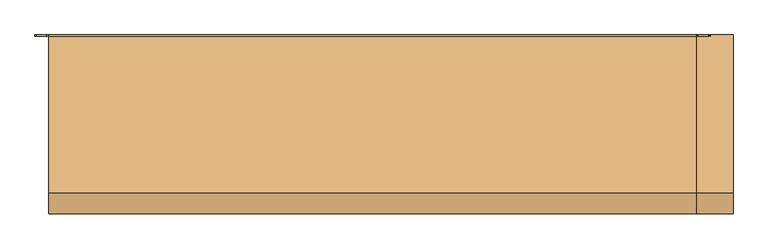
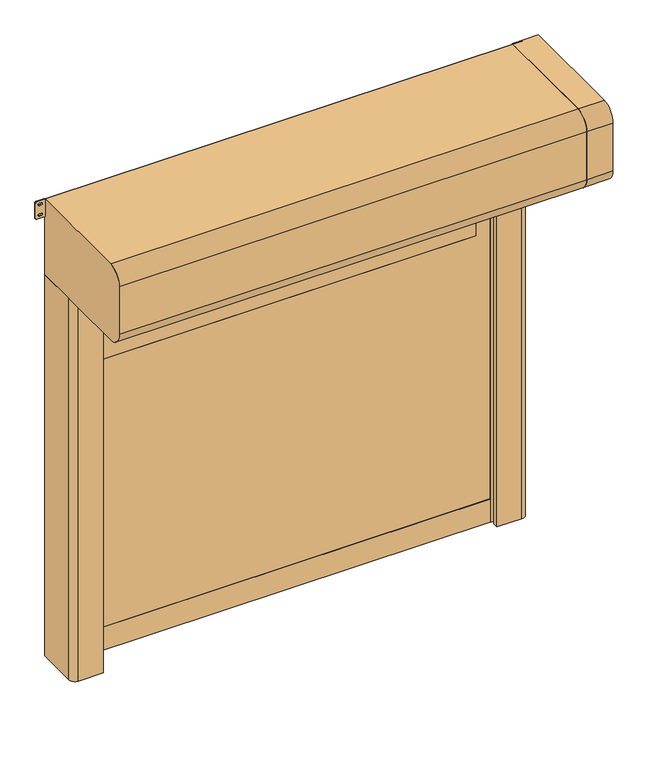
"""IFC4 building model written with IfcOpenShell, lengths in millimetres: door geometry, DO_WPB_Dynamicroll_BMP : Dynamicroll B-Drive."""

from ifc_helpers import new_model, si_unit, point, frame, frame_2d, origin, origin_with_axes, place, context, project, spatial, polyline, circle_curve, trimmed, segment, composite_curve, outline, extrude, source, transform, mapped, element, save


def door_5d1182d7(model_context):
    return source(origin(), model_context, "Body", "SweptSolid", [
        extrude(outline(composite_curve([segment(trimmed(circle_curve(frame_2d((1000.0, 1109.0)), 6.0), [point((1006.0, 1109.0))], [point((994.0, 1109.0))], False, "CARTESIAN"), True, "CONTINUOUS"), segment(polyline([(994.0, 1109.0), (994.0, 1127.0)]), True, "CONTINUOUS"), segment(trimmed(circle_curve(frame_2d((1000.0, 1127.0)), 6.0), [point((994.0, 1127.0))], [point((1006.0, 1127.0))], False, "CARTESIAN"), True, "CONTINUOUS"), segment(polyline([(1006.0, 1127.0), (1006.0, 1109.0)]), True, "CONTINUOUS")], self_intersect=False)), frame((0.0, -20.0, 0.0), z_axis=(0.0, 1.0, 0.0), x_axis=(0.0, 0.0, 1.0)), (0.0, 0.0, 1.0), 20.0),
        extrude(outline(composite_curve([segment(trimmed(circle_curve(frame_2d((1850.0, 1109.0)), 6.0), [point((1856.0, 1109.0))], [point((1844.0, 1109.0))], False, "CARTESIAN"), True, "CONTINUOUS"), segment(polyline([(1844.0, 1109.0), (1844.0, 1127.0)]), True, "CONTINUOUS"), segment(trimmed(circle_curve(frame_2d((1850.0, 1127.0)), 6.0), [point((1844.0, 1127.0))], [point((1856.0, 1127.0))], False, "CARTESIAN"), True, "CONTINUOUS"), segment(polyline([(1856.0, 1127.0), (1856.0, 1109.0)]), True, "CONTINUOUS")], self_intersect=False)), frame((0.0, -20.0, 0.0), z_axis=(0.0, 1.0, 0.0), x_axis=(0.0, 0.0, 1.0)), (0.0, 0.0, 1.0), 20.0),
        extrude(outline(composite_curve([segment(trimmed(circle_curve(frame_2d((150.0, 1109.0)), 6.0), [point((156.0, 1109.0))], [point((144.0, 1109.0))], False, "CARTESIAN"), True, "CONTINUOUS"), segment(polyline([(144.0, 1109.0), (144.0, 1127.0)]), True, "CONTINUOUS"), segment(trimmed(circle_curve(frame_2d((150.0, 1127.0)), 6.0), [point((144.0, 1127.0))], [point((156.0, 1127.0))], False, "CARTESIAN"), True, "CONTINUOUS"), segment(polyline([(156.0, 1127.0), (156.0, 1109.0)]), True, "CONTINUOUS")], self_intersect=False)), frame((0.0, -20.0, 0.0), z_axis=(0.0, 1.0, 0.0), x_axis=(0.0, 0.0, 1.0)), (0.0, 0.0, 1.0), 20.0),
        extrude(outline(composite_curve([segment(polyline([(1006.0, -1109.0), (1006.0, -1127.0)]), True, "CONTINUOUS"), segment(trimmed(circle_curve(frame_2d((1000.0, -1127.0)), 6.0), [point((1006.0, -1127.0))], [point((994.0, -1127.0))], False, "CARTESIAN"), True, "CONTINUOUS"), segment(polyline([(994.0, -1127.0), (994.0, -1109.0)]), True, "CONTINUOUS"), segment(trimmed(circle_curve(frame_2d((1000.0, -1109.0)), 6.0), [point((994.0, -1109.0))], [point((1006.0, -1109.0))], False, "CARTESIAN"), True, "CONTINUOUS")], self_intersect=False)), frame((0.0, -20.0, 0.0), z_axis=(0.0, 1.0, 0.0), x_axis=(0.0, 0.0, 1.0)), (0.0, 0.0, 1.0), 20.0),
        extrude(outline(composite_curve([segment(polyline([(1856.0, -1109.0), (1856.0, -1127.0)]), True, "CONTINUOUS"), segment(trimmed(circle_curve(frame_2d((1850.0, -1127.0)), 6.0), [point((1856.0, -1127.0))], [point((1844.0, -1127.0))], False, "CARTESIAN"), True, "CONTINUOUS"), segment(polyline([(1844.0, -1127.0), (1844.0, -1109.0)]), True, "CONTINUOUS"), segment(trimmed(circle_curve(frame_2d((1850.0, -1109.0)), 6.0), [point((1844.0, -1109.0))], [point((1856.0, -1109.0))], False, "CARTESIAN"), True, "CONTINUOUS")], self_intersect=False)), frame((0.0, -20.0, 0.0), z_axis=(0.0, 1.0, 0.0), x_axis=(0.0, 0.0, 1.0)), (0.0, 0.0, 1.0), 20.0),
        extrude(outline(composite_curve([segment(polyline([(156.0, -1109.0), (156.0, -1127.0)]), True, "CONTINUOUS"), segment(trimmed(circle_curve(frame_2d((150.0, -1127.0)), 6.0), [point((156.0, -1127.0))], [point((144.0, -1127.0))], False, "CARTESIAN"), True, "CONTINUOUS"), segment(polyline([(144.0, -1127.0), (144.0, -1109.0)]), True, "CONTINUOUS"), segment(trimmed(circle_curve(frame_2d((150.0, -1109.0)), 6.0), [point((144.0, -1109.0))], [point((156.0, -1109.0))], False, "CARTESIAN"), True, "CONTINUOUS")], self_intersect=False)), frame((0.0, -20.0, 0.0), z_axis=(0.0, 1.0, 0.0), x_axis=(0.0, 0.0, 1.0)), (0.0, 0.0, 1.0), 20.0),
        extrude(outline(composite_curve([segment(trimmed(circle_curve(frame_2d((1526.0, 929.0)), 1.0), [point((1525.0, 929.0))], [point((1526.0, 930.0))], False, "CARTESIAN"), True, "CONTINUOUS"), segment(polyline([(1526.0, 930.0), (2024.0, 930.0)]), True, "CONTINUOUS"), segment(trimmed(circle_curve(frame_2d((2024.0, 929.0)), 1.0), [point((2024.0, 930.0))], [point((2025.0, 929.0))], False, "CARTESIAN"), True, "CONTINUOUS"), segment(polyline([(2025.0, 929.0), (2025.0, -929.0)]), True, "CONTINUOUS"), segment(trimmed(circle_curve(frame_2d((2024.0, -929.0)), 1.0), [point((2025.0, -929.0))], [point((2024.0, -930.0))], False, "CARTESIAN"), True, "CONTINUOUS"), segment(polyline([(2024.0, -930.0), (1526.0, -930.0)]), True, "CONTINUOUS"), segment(trimmed(circle_curve(frame_2d((1526.0, -929.0)), 1.0), [point((1526.0, -930.0))], [point((1525.0, -929.0))], False, "CARTESIAN"), True, "CONTINUOUS"), segment(polyline([(1525.0, -929.0), (1525.0, 929.0)]), True, "CONTINUOUS")], self_intersect=False)), frame((0.0, -86.0, 0.0), z_axis=(0.0, 1.0, 0.0), x_axis=(0.0, 0.0, 1.0)), (0.0, 0.0, 1.0), 7.0),
        extrude(outline(polyline([(120.0, -1012.0), (120.0, 1012.0), (2200.0, 1012.0), (2200.0, -1012.0), (120.0, -1012.0)]), holes=[composite_curve([segment(trimmed(circle_curve(frame_2d((1526.0, 929.0)), 1.0), [point((1526.0, 930.0))], [point((1525.0, 929.0))], True, "CARTESIAN"), True, "CONTINUOUS"), segment(polyline([(1525.0, 929.0), (1525.0, -929.0)]), True, "CONTINUOUS"), segment(trimmed(circle_curve(frame_2d((1526.0, -929.0)), 1.0), [point((1525.0, -929.0))], [point((1526.0, -930.0))], True, "CARTESIAN"), True, "CONTINUOUS"), segment(polyline([(1526.0, -930.0), (2024.0, -930.0)]), True, "CONTINUOUS"), segment(trimmed(circle_curve(frame_2d((2024.0, -929.0)), 1.0), [point((2024.0, -930.0))], [point((2025.0, -929.0))], True, "CARTESIAN"), True, "CONTINUOUS"), segment(polyline([(2025.0, -929.0), (2025.0, 929.0)]), True, "CONTINUOUS"), segment(trimmed(circle_curve(frame_2d((2024.0, 929.0)), 1.0), [point((2025.0, 929.0))], [point((2024.0, 930.0))], True, "CARTESIAN"), True, "CONTINUOUS"), segment(polyline([(2024.0, 930.0), (1526.0, 930.0)]), True, "CONTINUOUS")], self_intersect=False)]), frame((0.0, -86.0, 0.0), z_axis=(0.0, 1.0, 0.0), x_axis=(0.0, 0.0, 1.0)), (0.0, 0.0, 1.0), 7.0),
        extrude(outline(polyline([(-1012.0, -77.0), (1012.0, -77.0), (1012.0, -88.0), (-1012.0, -88.0), (-1012.0, -77.0)])), origin_with_axes(), (0.0, 0.0, 1.0), 120.0),
        extrude(outline(composite_curve([segment(trimmed(circle_curve(frame_2d((2313.75, 1165.75)), 5.75), [point((2313.75, 1160.0))], [point((2308.0, 1165.75))], False, "CARTESIAN"), True, "CONTINUOUS"), segment(polyline([(2308.0, 1165.75), (2308.0, 1203.25)]), True, "CONTINUOUS"), segment(trimmed(circle_curve(frame_2d((2313.75, 1203.25)), 5.75), [point((2308.0, 1203.25))], [point((2313.75, 1209.0))], False, "CARTESIAN"), True, "CONTINUOUS"), segment(polyline([(2313.75, 1209.0), (2394.25, 1209.0)]), True, "CONTINUOUS"), segment(trimmed(circle_curve(frame_2d((2394.25, 1203.25)), 5.75), [point((2394.25, 1209.0))], [point((2400.0, 1203.25))], False, "CARTESIAN"), True, "CONTINUOUS"), segment(polyline([(2400.0, 1203.25), (2400.0, 1165.75)]), True, "CONTINUOUS"), segment(trimmed(circle_curve(frame_2d((2394.25, 1165.75)), 5.75), [point((2400.0, 1165.75))], [point((2394.25, 1160.0))], False, "CARTESIAN"), True, "CONTINUOUS"), segment(polyline([(2394.25, 1160.0), (2313.75, 1160.0)]), True, "CONTINUOUS")], self_intersect=False), holes=[composite_curve([segment(trimmed(circle_curve(frame_2d((2381.5, 1188.75)), 5.75), [point((2387.25, 1188.75))], [point((2375.75, 1188.75))], True, "CARTESIAN"), True, "CONTINUOUS"), segment(polyline([(2375.75, 1188.75), (2375.75, 1180.25)]), True, "CONTINUOUS"), segment(trimmed(circle_curve(frame_2d((2381.5, 1180.25)), 5.75), [point((2375.75, 1180.25))], [point((2387.25, 1180.25))], True, "CARTESIAN"), True, "CONTINUOUS"), segment(polyline([(2387.25, 1180.25), (2387.25, 1188.75)]), True, "CONTINUOUS")], self_intersect=False), composite_curve([segment(trimmed(circle_curve(frame_2d((2326.5, 1188.75)), 5.75), [point((2332.25, 1188.75))], [point((2320.75, 1188.75))], True, "CARTESIAN"), True, "CONTINUOUS"), segment(polyline([(2320.75, 1188.75), (2320.75, 1180.25)]), True, "CONTINUOUS"), segment(trimmed(circle_curve(frame_2d((2326.5, 1180.25)), 5.75), [point((2320.75, 1180.25))], [point((2332.25, 1180.25))], True, "CARTESIAN"), True, "CONTINUOUS"), segment(polyline([(2332.25, 1180.25), (2332.25, 1188.75)]), True, "CONTINUOUS")], self_intersect=False)]), frame((0.0, -5.0, 0.0), z_axis=(0.0, 1.0, 0.0), x_axis=(0.0, 0.0, 1.0)), (0.0, 0.0, 1.0), 5.0),
        extrude(outline(composite_curve([segment(trimmed(circle_curve(frame_2d((2313.75, -1203.25)), 5.75), [point((2313.75, -1209.0))], [point((2308.0, -1203.25))], False, "CARTESIAN"), True, "CONTINUOUS"), segment(polyline([(2308.0, -1203.25), (2308.0, -1165.75)]), True, "CONTINUOUS"), segment(trimmed(circle_curve(frame_2d((2313.75, -1165.75)), 5.75), [point((2308.0, -1165.75))], [point((2313.75, -1160.0))], False, "CARTESIAN"), True, "CONTINUOUS"), segment(polyline([(2313.75, -1160.0), (2394.25, -1160.0)]), True, "CONTINUOUS"), segment(trimmed(circle_curve(frame_2d((2394.25, -1165.75)), 5.75), [point((2394.25, -1160.0))], [point((2400.0, -1165.75))], False, "CARTESIAN"), True, "CONTINUOUS"), segment(polyline([(2400.0, -1165.75), (2400.0, -1203.25)]), True, "CONTINUOUS"), segment(trimmed(circle_curve(frame_2d((2394.25, -1203.25)), 5.75), [point((2400.0, -1203.25))], [point((2394.25, -1209.0))], False, "CARTESIAN"), True, "CONTINUOUS"), segment(polyline([(2394.25, -1209.0), (2313.75, -1209.0)]), True, "CONTINUOUS")], self_intersect=False), holes=[composite_curve([segment(trimmed(circle_curve(frame_2d((2381.5, -1180.25)), 5.75), [point((2387.25, -1180.25))], [point((2375.75, -1180.25))], True, "CARTESIAN"), True, "CONTINUOUS"), segment(polyline([(2375.75, -1180.25), (2375.75, -1188.75)]), True, "CONTINUOUS"), segment(trimmed(circle_curve(frame_2d((2381.5, -1188.75)), 5.75), [point((2375.75, -1188.75))], [point((2387.25, -1188.75))], True, "CARTESIAN"), True, "CONTINUOUS"), segment(polyline([(2387.25, -1188.75), (2387.25, -1180.25)]), True, "CONTINUOUS")], self_intersect=False), composite_curve([segment(trimmed(circle_curve(frame_2d((2326.5, -1180.25)), 5.75), [point((2332.25, -1180.25))], [point((2320.75, -1180.25))], True, "CARTESIAN"), True, "CONTINUOUS"), segment(polyline([(2320.75, -1180.25), (2320.75, -1188.75)]), True, "CONTINUOUS"), segment(trimmed(circle_curve(frame_2d((2326.5, -1188.75)), 5.75), [point((2320.75, -1188.75))], [point((2332.25, -1188.75))], True, "CARTESIAN"), True, "CONTINUOUS"), segment(polyline([(2332.25, -1188.75), (2332.25, -1180.25)]), True, "CONTINUOUS")], self_intersect=False)]), frame((0.0, -5.0, 0.0), z_axis=(0.0, 1.0, 0.0), x_axis=(0.0, 0.0, 1.0)), (0.0, 0.0, 1.0), 5.0),
        extrude(outline(composite_curve([segment(polyline([(-1160.0, 0.0), (-1015.0, 0.0), (-1015.0, -66.7857143), (-1035.0, -72.5), (-1000.0, -72.5), (-1000.0, -79.0), (-1020.0, -79.0), (-1020.0, -86.0), (-1000.0, -86.0), (-1000.0, -92.5), (-1035.0, -92.5), (-1035.0, -107.5), (-1005.0, -107.5), (-1005.0, -235.0), (-1130.0, -235.0)]), True, "CONTINUOUS"), segment(trimmed(circle_curve(frame_2d((-1130.0, -205.0)), 30.0), [point((-1130.0, -235.0))], [point((-1160.0, -205.0))], False, "CARTESIAN"), True, "CONTINUOUS"), segment(polyline([(-1160.0, -205.0), (-1160.0, 0.0)]), True, "CONTINUOUS")], self_intersect=False)), origin_with_axes(), (0.0, 0.0, 1.0), 2000.0),
        extrude(outline(composite_curve([segment(polyline([(1160.0, 0.0), (1160.0, -105.0)]), True, "CONTINUOUS"), segment(trimmed(circle_curve(frame_2d((1130.0, -105.0)), 30.0), [point((1160.0, -105.0))], [point((1130.0, -135.0))], False, "CARTESIAN"), True, "CONTINUOUS"), segment(polyline([(1130.0, -135.0), (1005.0, -135.0), (1005.0, -107.5), (1035.0, -107.5), (1035.0, -92.5), (1000.0, -92.5), (1000.0, -86.0), (1020.0, -86.0), (1020.0, -79.0), (1000.0, -79.0), (1000.0, -72.5), (1035.0, -72.5), (1015.0, -66.7857143), (1015.0, 0.0), (1160.0, 0.0)]), True, "CONTINUOUS")], self_intersect=False)), origin_with_axes(), (0.0, 0.0, 1.0), 2000.0),
        extrude(outline(composite_curve([segment(polyline([(0.0, 2400.0), (0.0, 2000.0), (-565.0, 2000.0)]), True, "CONTINUOUS"), segment(trimmed(circle_curve(frame_2d((-565.0, 2075.0)), 75.0), [point((-565.0, 2000.0))], [point((-640.0, 2075.0))], False, "CARTESIAN"), True, "CONTINUOUS"), segment(polyline([(-640.0, 2075.0), (-640.0, 2325.0)]), True, "CONTINUOUS"), segment(trimmed(circle_curve(frame_2d((-565.0, 2325.0)), 75.0), [point((-640.0, 2325.0))], [point((-565.0, 2400.0))], False, "CARTESIAN"), True, "CONTINUOUS"), segment(polyline([(-565.0, 2400.0), (0.0, 2400.0)]), True, "CONTINUOUS")], self_intersect=False)), frame((1160.0, 0.0, 0.0), z_axis=(1.0, 0.0, 0.0), x_axis=(0.0, 1.0, 0.0)), (0.0, 0.0, 1.0), 130.0),
        extrude(outline(composite_curve([segment(trimmed(circle_curve(frame_2d((-5.0, 2005.0)), 5.0), [point((0.0, 2005.0))], [point((-5.0, 2000.0))], False, "CARTESIAN"), True, "CONTINUOUS"), segment(polyline([(-5.0, 2000.0), (-565.0, 2000.0)]), True, "CONTINUOUS"), segment(trimmed(circle_curve(frame_2d((-565.0, 2075.0)), 75.0), [point((-565.0, 2000.0))], [point((-640.0, 2075.0))], False, "CARTESIAN"), True, "CONTINUOUS"), segment(polyline([(-640.0, 2075.0), (-640.0, 2325.0)]), True, "CONTINUOUS"), segment(trimmed(circle_curve(frame_2d((-565.0, 2325.0)), 75.0), [point((-640.0, 2325.0))], [point((-565.0, 2400.0))], False, "CARTESIAN"), True, "CONTINUOUS"), segment(polyline([(-565.0, 2400.0), (-5.0, 2400.0)]), True, "CONTINUOUS"), segment(trimmed(circle_curve(frame_2d((-5.0, 2395.0)), 5.0), [point((-5.0, 2400.0))], [point((0.0, 2395.0))], False, "CARTESIAN"), True, "CONTINUOUS"), segment(polyline([(0.0, 2395.0), (0.0, 2005.0)]), True, "CONTINUOUS")], self_intersect=False)), frame((-1160.0, 0.0, 0.0), z_axis=(1.0, 0.0, 0.0), x_axis=(0.0, 1.0, 0.0)), (0.0, 0.0, 1.0), 2320.0),
    ])


if __name__ == "__main__":
    model = new_model("IFC4")
    model_context = context("Model", 3, world=origin())
    ifc_project = project(units=[si_unit("LENGTHUNIT", "METRE", prefix="MILLI")], contexts=[model_context])
    site = spatial("IfcSite", under=ifc_project)
    building = spatial("IfcBuilding", under=site)
    placement = place(None, origin())
    door_shape = door_5d1182d7(model_context)
    element("IfcDoor", 1, ObjectType="DO_WPB_Dynamicroll_BMP : Dynamicroll B-Drive", at=placement, inside=building, context=model_context, shape_type="MappedRepresentation", body=[
        mapped(door_shape, transform((0.0, 0.0, 0.0), x_axis=(1.0, 0.0, 0.0), y_axis=(0.0, 1.0, 0.0), z_axis=(0.0, 0.0, 1.0))),
    ])
    save(model, "model.ifc")
